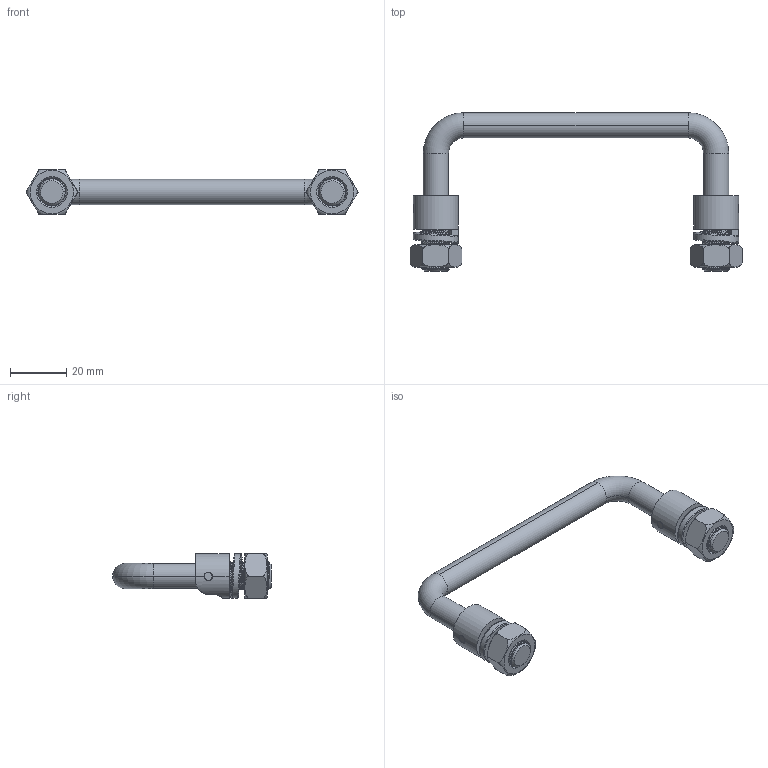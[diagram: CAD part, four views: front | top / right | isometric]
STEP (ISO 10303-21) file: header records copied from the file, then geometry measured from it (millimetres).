
FILE_DESCRIPTION (( 'STEP AP203' ), '1' );
FILE_NAME ('XG01-065-1-100.STEP', '2024-03-13T02:42:17', ( '' ), ( '' ), 'SwSTEP 2.0', 'SolidWorks 2020', '' );
FILE_SCHEMA (( 'CONFIG_CONTROL_DESIGN' ));
Length unit declared in the file: millimetre
Products named in the file (5): M10蹟譫; 1; 饜璃1; XG01-065-1-100; 饜璃2
Assembly tree (7 placements, depth 2):
  XG01-065-1-100
    1
    饜璃1  x2
    饜璃2  x2
    M10蹟譫  x2
Bounding box: 118.48 x 56.55 x 16 mm (x, y, z)
Volume: 17686.5 mm3; surface area: 11389.1 mm2
Topology: 11 solids, 11 shells, 252 faces, 692 edges, 448 vertices
Faces by surface type: cylinder 134, plane 42, torus 26, bspline 26, cone 18, sphere 6
Entity records: 9911 total; most frequent: CARTESIAN_POINT 6075, ORIENTED_EDGE 770, DIRECTION 605, EDGE_CURVE 385, VERTEX_POINT 250, AXIS2_PLACEMENT_3D 248, EDGE_LOOP 149, FACE_OUTER_BOUND 143
